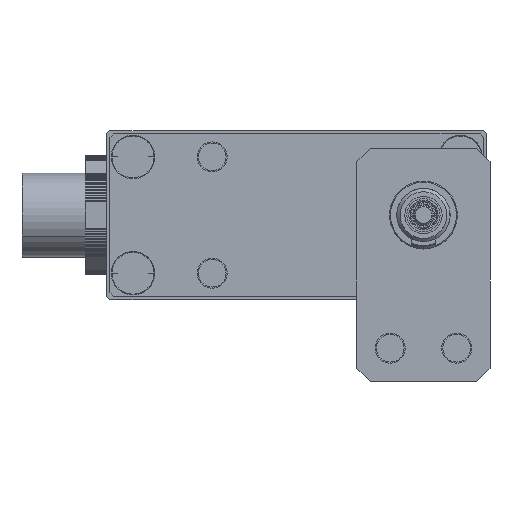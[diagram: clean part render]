
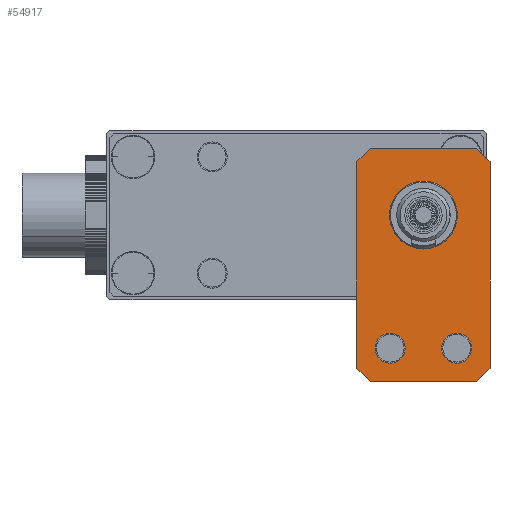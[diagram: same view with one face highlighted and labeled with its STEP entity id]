
A CAD part, left-side view. The second image highlights one B-rep face of the part: STEP entity #54917.
In plain terms, the highlighted planar face has unit normal (-1, 0, 0).
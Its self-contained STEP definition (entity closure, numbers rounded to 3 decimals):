
#76 = DIRECTION ( 'NONE',  ( 1., 0., 0. ) ) ;
#245 = DIRECTION ( 'NONE',  ( 1., 0., 0. ) ) ;
#355 = CARTESIAN_POINT ( 'NONE',  ( 89.056, 0., -4.6 ) ) ;
#797 = VERTEX_POINT ( 'NONE', #75646 ) ;
#999 = CIRCLE ( 'NONE', #58882, 2.25 ) ;
#1300 = CARTESIAN_POINT ( 'NONE',  ( 89.056, 0., 0. ) ) ;
#2575 = EDGE_CURVE ( 'NONE', #44843, #55671, #12211, .T. ) ;
#3188 = VERTEX_POINT ( 'NONE', #57720 ) ;
#6285 = FACE_OUTER_BOUND ( 'NONE', #73231, .T. ) ;
#6674 = EDGE_CURVE ( 'NONE', #797, #73142, #16359, .T. ) ;
#7511 = DIRECTION ( 'NONE',  ( 0., 0., -1. ) ) ;
#7976 = CARTESIAN_POINT ( 'NONE',  ( 89.056, 8.001, 10.001 ) ) ;
#8539 = CARTESIAN_POINT ( 'NONE',  ( 89.056, 5., -20. ) ) ;
#9641 = EDGE_CURVE ( 'NONE', #55671, #44843, #11768, .T. ) ;
#11768 = CIRCLE ( 'NONE', #62549, 4.6 ) ;
#12030 = ORIENTED_EDGE ( 'NONE', *, *, #38753, .T. ) ;
#12211 = CIRCLE ( 'NONE', #46087, 4.6 ) ;
#13809 = ORIENTED_EDGE ( 'NONE', *, *, #22729, .T. ) ;
#14280 = ORIENTED_EDGE ( 'NONE', *, *, #40841, .T. ) ;
#14634 = EDGE_LOOP ( 'NONE', ( #14681, #14280 ) ) ;
#14681 = ORIENTED_EDGE ( 'NONE', *, *, #34894, .T. ) ;
#14820 = DIRECTION ( 'NONE',  ( 0., 0., -1. ) ) ;
#14915 = AXIS2_PLACEMENT_3D ( 'NONE', #29226, #28344, #15092 ) ;
#15044 = CARTESIAN_POINT ( 'NONE',  ( 89.056, 0., 10.001 ) ) ;
#15092 = DIRECTION ( 'NONE',  ( 0., 0., -1. ) ) ;
#16359 = LINE ( 'NONE', #15044, #86421 ) ;
#17580 = CARTESIAN_POINT ( 'NONE',  ( 89.056, -8.001, -25. ) ) ;
#18507 = VERTEX_POINT ( 'NONE', #48054 ) ;
#18892 = LINE ( 'NONE', #66138, #23272 ) ;
#19252 = VERTEX_POINT ( 'NONE', #30662 ) ;
#19949 = VECTOR ( 'NONE', #48175, 1000. ) ;
#19969 = FACE_BOUND ( 'NONE', #52912, .T. ) ;
#20738 = CIRCLE ( 'NONE', #50319, 2.25 ) ;
#21249 = DIRECTION ( 'NONE',  ( 0., -1., 0. ) ) ;
#22729 = EDGE_CURVE ( 'NONE', #33243, #3188, #35764, .T. ) ;
#23272 = VECTOR ( 'NONE', #30835, 1000. ) ;
#25405 = DIRECTION ( 'NONE',  ( 0., 0., -1. ) ) ;
#26913 = EDGE_CURVE ( 'NONE', #64499, #797, #34144, .T. ) ;
#27515 = LINE ( 'NONE', #65944, #83560 ) ;
#28147 = CIRCLE ( 'NONE', #78922, 2.25 ) ;
#28344 = DIRECTION ( 'NONE',  ( 1., 0., 0. ) ) ;
#29226 = CARTESIAN_POINT ( 'NONE',  ( 89.056, -5., -20. ) ) ;
#30662 = CARTESIAN_POINT ( 'NONE',  ( 89.056, -5., -22.25 ) ) ;
#30835 = DIRECTION ( 'NONE',  ( 0., 0., -1. ) ) ;
#30956 = VECTOR ( 'NONE', #21249, 1000. ) ;
#32014 = CARTESIAN_POINT ( 'NONE',  ( 89.056, -5., -20. ) ) ;
#32785 = PLANE ( 'NONE',  #49443 ) ;
#33243 = VERTEX_POINT ( 'NONE', #17580 ) ;
#33629 = LINE ( 'NONE', #47334, #30956 ) ;
#33654 = FACE_BOUND ( 'NONE', #14634, .T. ) ;
#33972 = CARTESIAN_POINT ( 'NONE',  ( 89.056, 0., 0. ) ) ;
#34144 = LINE ( 'NONE', #81033, #69333 ) ;
#34894 = EDGE_CURVE ( 'NONE', #19252, #65950, #20738, .T. ) ;
#34907 = CARTESIAN_POINT ( 'NONE',  ( 89.056, 8.001, 10.001 ) ) ;
#35764 = LINE ( 'NONE', #62722, #41397 ) ;
#35895 = EDGE_CURVE ( 'NONE', #65391, #63322, #999, .T. ) ;
#36040 = ORIENTED_EDGE ( 'NONE', *, *, #73137, .T. ) ;
#36526 = ORIENTED_EDGE ( 'NONE', *, *, #26913, .T. ) ;
#36994 = ORIENTED_EDGE ( 'NONE', *, *, #47666, .T. ) ;
#37135 = DIRECTION ( 'NONE',  ( 0., -0.707, -0.707 ) ) ;
#38654 = DIRECTION ( 'NONE',  ( 1., 0., 0. ) ) ;
#38753 = EDGE_CURVE ( 'NONE', #72328, #18507, #18892, .T. ) ;
#39446 = CARTESIAN_POINT ( 'NONE',  ( 89.056, 10., 8.002 ) ) ;
#40841 = EDGE_CURVE ( 'NONE', #65950, #19252, #64232, .T. ) ;
#40929 = CARTESIAN_POINT ( 'NONE',  ( 89.056, 5., -17.75 ) ) ;
#41397 = VECTOR ( 'NONE', #83077, 1000. ) ;
#42405 = DIRECTION ( 'NONE',  ( 0., 1., 0. ) ) ;
#43350 = LINE ( 'NONE', #44219, #87045 ) ;
#44219 = CARTESIAN_POINT ( 'NONE',  ( 89.056, 10., -23.001 ) ) ;
#44843 = VERTEX_POINT ( 'NONE', #355 ) ;
#45354 = EDGE_CURVE ( 'NONE', #63322, #65391, #28147, .T. ) ;
#46087 = AXIS2_PLACEMENT_3D ( 'NONE', #1300, #75556, #7511 ) ;
#47334 = CARTESIAN_POINT ( 'NONE',  ( 89.056, 0., -25. ) ) ;
#47409 = DIRECTION ( 'NONE',  ( 0., 0.707, 0.707 ) ) ;
#47666 = EDGE_CURVE ( 'NONE', #75117, #33243, #33629, .T. ) ;
#47897 = CARTESIAN_POINT ( 'NONE',  ( 89.056, -5., -17.75 ) ) ;
#48054 = CARTESIAN_POINT ( 'NONE',  ( 89.056, 10., -23.001 ) ) ;
#48175 = DIRECTION ( 'NONE',  ( 0., 0.707, -0.707 ) ) ;
#48210 = EDGE_LOOP ( 'NONE', ( #53224, #61648 ) ) ;
#49443 = AXIS2_PLACEMENT_3D ( 'NONE', #60610, #76, #53107 ) ;
#50319 = AXIS2_PLACEMENT_3D ( 'NONE', #32014, #38654, #25405 ) ;
#51114 = LINE ( 'NONE', #7976, #19949 ) ;
#52683 = DIRECTION ( 'NONE',  ( 0., 0., 1. ) ) ;
#52912 = EDGE_LOOP ( 'NONE', ( #59670, #75123 ) ) ;
#53107 = DIRECTION ( 'NONE',  ( 0., 1., 0. ) ) ;
#53224 = ORIENTED_EDGE ( 'NONE', *, *, #45354, .T. ) ;
#54917 = ADVANCED_FACE ( 'NONE', ( #19969, #80088, #33654, #6285 ), #32785, .F. ) ;
#55671 = VERTEX_POINT ( 'NONE', #64329 ) ;
#56163 = CARTESIAN_POINT ( 'NONE',  ( 89.056, -10., 8.002 ) ) ;
#56342 = EDGE_CURVE ( 'NONE', #3188, #64499, #27515, .T. ) ;
#57720 = CARTESIAN_POINT ( 'NONE',  ( 89.056, -10., -23.001 ) ) ;
#58882 = AXIS2_PLACEMENT_3D ( 'NONE', #8539, #62444, #73985 ) ;
#59670 = ORIENTED_EDGE ( 'NONE', *, *, #2575, .T. ) ;
#60610 = CARTESIAN_POINT ( 'NONE',  ( 89.056, -10., 10.001 ) ) ;
#60937 = DIRECTION ( 'NONE',  ( 1., 0., 0. ) ) ;
#61482 = ORIENTED_EDGE ( 'NONE', *, *, #6674, .T. ) ;
#61648 = ORIENTED_EDGE ( 'NONE', *, *, #35895, .T. ) ;
#62444 = DIRECTION ( 'NONE',  ( 1., 0., 0. ) ) ;
#62549 = AXIS2_PLACEMENT_3D ( 'NONE', #33972, #60937, #68454 ) ;
#62722 = CARTESIAN_POINT ( 'NONE',  ( 89.056, -8.001, -25. ) ) ;
#63322 = VERTEX_POINT ( 'NONE', #75405 ) ;
#64232 = CIRCLE ( 'NONE', #14915, 2.25 ) ;
#64329 = CARTESIAN_POINT ( 'NONE',  ( 89.056, 0., 4.6 ) ) ;
#64497 = EDGE_CURVE ( 'NONE', #18507, #75117, #43350, .T. ) ;
#64499 = VERTEX_POINT ( 'NONE', #56163 ) ;
#65391 = VERTEX_POINT ( 'NONE', #40929 ) ;
#65944 = CARTESIAN_POINT ( 'NONE',  ( 89.056, -10., -7.499 ) ) ;
#65950 = VERTEX_POINT ( 'NONE', #47897 ) ;
#66138 = CARTESIAN_POINT ( 'NONE',  ( 89.056, 10., -7.499 ) ) ;
#67299 = CARTESIAN_POINT ( 'NONE',  ( 89.056, 8.001, -25. ) ) ;
#68454 = DIRECTION ( 'NONE',  ( 0., 0., -1. ) ) ;
#69333 = VECTOR ( 'NONE', #47409, 1000. ) ;
#72328 = VERTEX_POINT ( 'NONE', #39446 ) ;
#73137 = EDGE_CURVE ( 'NONE', #73142, #72328, #51114, .T. ) ;
#73142 = VERTEX_POINT ( 'NONE', #34907 ) ;
#73231 = EDGE_LOOP ( 'NONE', ( #86746, #36526, #61482, #36040, #12030, #81802, #36994, #13809 ) ) ;
#73985 = DIRECTION ( 'NONE',  ( 0., 0., -1. ) ) ;
#75117 = VERTEX_POINT ( 'NONE', #67299 ) ;
#75123 = ORIENTED_EDGE ( 'NONE', *, *, #9641, .T. ) ;
#75369 = CARTESIAN_POINT ( 'NONE',  ( 89.056, 5., -20. ) ) ;
#75405 = CARTESIAN_POINT ( 'NONE',  ( 89.056, 5., -22.25 ) ) ;
#75556 = DIRECTION ( 'NONE',  ( 1., 0., 0. ) ) ;
#75646 = CARTESIAN_POINT ( 'NONE',  ( 89.056, -8.001, 10.001 ) ) ;
#78922 = AXIS2_PLACEMENT_3D ( 'NONE', #75369, #245, #14820 ) ;
#80088 = FACE_BOUND ( 'NONE', #48210, .T. ) ;
#81033 = CARTESIAN_POINT ( 'NONE',  ( 89.056, -10., 8.002 ) ) ;
#81802 = ORIENTED_EDGE ( 'NONE', *, *, #64497, .T. ) ;
#83077 = DIRECTION ( 'NONE',  ( 0., -0.707, 0.707 ) ) ;
#83560 = VECTOR ( 'NONE', #52683, 1000. ) ;
#86421 = VECTOR ( 'NONE', #42405, 1000. ) ;
#86746 = ORIENTED_EDGE ( 'NONE', *, *, #56342, .T. ) ;
#87045 = VECTOR ( 'NONE', #37135, 1000. ) ;
